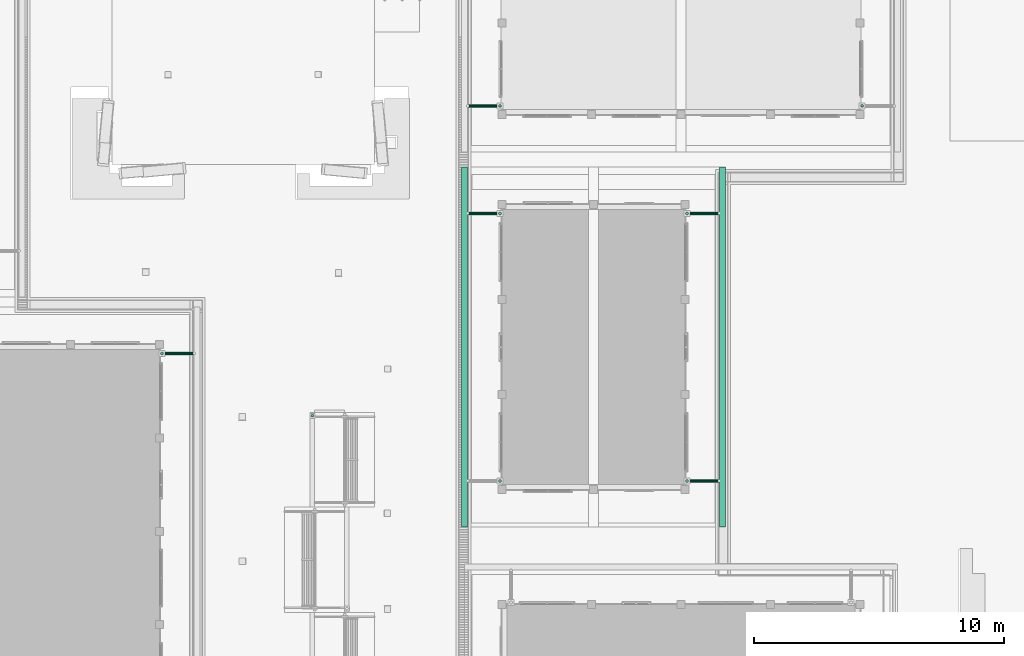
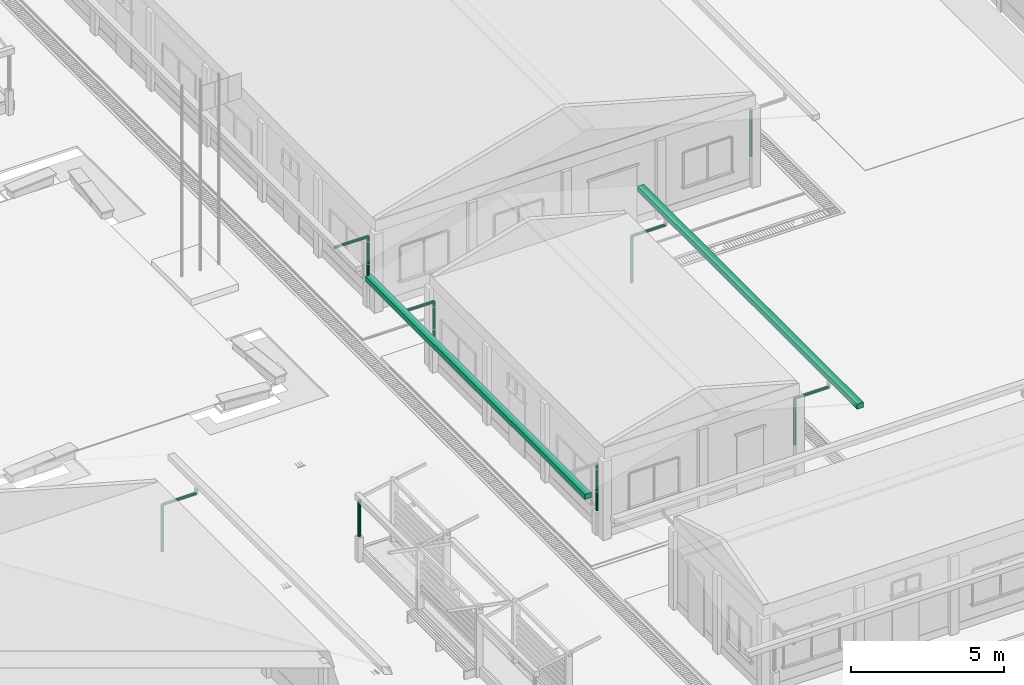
# One storey, part 95 of 151: 15 flow segments.
"""IFC2X3 building model written with IfcOpenShell, lengths in metres."""

from ifc_helpers import new_model, si_unit, origin, origin_with_axes, place, context, subcontext, project, spatial, faceted_brep, element, save


model = new_model("IFC2X3")

# Units and contexts
model_context = context("Model", 3, precision=1e-05, world=origin_with_axes())
body_context = subcontext(model_context, "Body", "Model", "MODEL_VIEW")
ifc_project = project(units=[si_unit("LENGTHUNIT", "METRE"), si_unit("AREAUNIT", "SQUARE_METRE"), si_unit("VOLUMEUNIT", "CUBIC_METRE"), si_unit("PLANEANGLEUNIT", "RADIAN")], contexts=[model_context])

# Site, building, storey
site_placement = place(None, origin_with_axes())
site = spatial("IfcSite", under=ifc_project, at=site_placement, Name="Predio Los Mangos - Morales, San Martín", CompositionType="ELEMENT")
building_placement = place(site_placement, origin())
building = spatial("IfcBuilding", under=site, at=building_placement, Name="Hogar de Refugio Temporal", CompositionType="ELEMENT")
storey_placement = place(building_placement, origin())
storey = spatial("IfcBuildingStorey", under=building, at=storey_placement, Name="NIVEL 1 (NPT +0.00)", CompositionType="ELEMENT", Elevation=0.0)

# Flow segments
flow_segment_1_placement = place(storey_placement, origin())
element("IfcFlowSegment", 1, at=flow_segment_1_placement, inside=storey, Name="E-02_canaleta", ObjectType="Canaleta", context=body_context, shape_type="Brep", body=[
    faceted_brep([(43.68, 41.4, 3.13), (43.68, 55.8, 3.13), (43.92, 55.8, 3.13), (43.92, 41.4, 3.13), (43.68, 41.4, 3.33), (43.92, 41.4, 3.33), (43.92, 55.8, 3.33), (43.68, 55.8, 3.33)], [[[0, 1, 2, 3]], [[4, 5, 6, 7]], [[0, 3, 5, 4]], [[3, 2, 6, 5]], [[2, 1, 7, 6]], [[1, 0, 4, 7]]]),
])
flow_segment_2_placement = place(storey_placement, origin())
element("IfcFlowSegment", 2, at=flow_segment_2_placement, inside=storey, Name="E-02_canaleta", ObjectType="Canaleta", context=body_context, shape_type="Brep", body=[
    faceted_brep([(53.98, 41.4, 3.13), (53.98, 55.8, 3.13), (54.22, 55.8, 3.13), (54.22, 41.4, 3.13), (53.98, 41.4, 3.33), (54.22, 41.4, 3.33), (54.22, 55.8, 3.33), (53.98, 55.8, 3.33)], [[[0, 1, 2, 3]], [[4, 5, 6, 7]], [[0, 3, 5, 4]], [[3, 2, 6, 5]], [[2, 1, 7, 6]], [[1, 0, 4, 7]]]),
])
flow_segment_3_placement = place(storey_placement, origin())
element("IfcFlowSegment", 3, at=flow_segment_3_placement, inside=storey, Name="montante_desvio", ObjectType="Montante PVC 4\"", context=body_context, shape_type="Brep", body=[
    faceted_brep([(32.98, 48.35, 2.965), (31.69, 48.35, 2.965), (31.69, 48.3225, 2.9576), (32.98, 48.3225, 2.9576), (31.69, 48.3024, 2.9375), (32.98, 48.3024, 2.9375), (31.69, 48.295, 2.91), (32.98, 48.295, 2.91), (31.69, 48.3024, 2.8825), (32.98, 48.3024, 2.8825), (31.69, 48.3225, 2.8624), (32.98, 48.3225, 2.8624), (31.69, 48.35, 2.855), (32.98, 48.35, 2.855), (31.69, 48.3775, 2.8624), (32.98, 48.3775, 2.8624), (31.69, 48.3976, 2.8825), (32.98, 48.3976, 2.8825), (31.69, 48.405, 2.91), (32.98, 48.405, 2.91), (31.69, 48.3976, 2.9375), (32.98, 48.3976, 2.9375), (31.69, 48.3775, 2.9576), (32.98, 48.3775, 2.9576)], [[[0, 1, 2, 3]], [[3, 2, 4, 5]], [[5, 4, 6, 7]], [[7, 6, 8, 9]], [[9, 8, 10, 11]], [[11, 10, 12, 13]], [[13, 12, 14, 15]], [[15, 14, 16, 17]], [[17, 16, 18, 19]], [[19, 18, 20, 21]], [[2, 1, 22, 20, 18, 16, 14, 12, 10, 8, 6, 4]], [[21, 20, 22, 23]], [[23, 22, 1, 0]], [[0, 3, 5, 7, 9, 11, 13, 15, 17, 19, 21, 23]]]),
])
flow_segment_4_placement = place(storey_placement, origin())
element("IfcFlowSegment", 4, at=flow_segment_4_placement, inside=storey, Name="montante_bajada", ObjectType="Montante PVC 4\"", context=body_context, shape_type="Brep", body=[
    faceted_brep([(31.69, 48.405, 2.91), (31.69, 48.405, 1.05), (31.6625, 48.3976, 1.05), (31.6625, 48.3976, 2.91), (31.6424, 48.3775, 1.05), (31.6424, 48.3775, 2.91), (31.635, 48.35, 1.05), (31.635, 48.35, 2.91), (31.6424, 48.3225, 1.05), (31.6424, 48.3225, 2.91), (31.6625, 48.3024, 1.05), (31.6625, 48.3024, 2.91), (31.69, 48.295, 1.05), (31.69, 48.295, 2.91), (31.7175, 48.3024, 1.05), (31.7175, 48.3024, 2.91), (31.7376, 48.3225, 1.05), (31.7376, 48.3225, 2.91), (31.745, 48.35, 1.05), (31.745, 48.35, 2.91), (31.7376, 48.3775, 1.05), (31.7376, 48.3775, 2.91), (31.7175, 48.3976, 1.05), (31.7175, 48.3976, 2.91)], [[[0, 1, 2, 3]], [[3, 2, 4, 5]], [[5, 4, 6, 7]], [[7, 6, 8, 9]], [[9, 8, 10, 11]], [[11, 10, 12, 13]], [[13, 12, 14, 15]], [[15, 14, 16, 17]], [[17, 16, 18, 19]], [[19, 18, 20, 21]], [[2, 1, 22, 20, 18, 16, 14, 12, 10, 8, 6, 4]], [[21, 20, 22, 23]], [[23, 22, 1, 0]], [[0, 3, 5, 7, 9, 11, 13, 15, 17, 19, 21, 23]]]),
])
flow_segment_5_placement = place(storey_placement, origin())
element("IfcFlowSegment", 5, at=flow_segment_5_placement, inside=storey, Name="montante_bajada", ObjectType="Montante PVC 4\"", context=body_context, shape_type="Brep", body=[
    faceted_brep([(45.21, 43.305, 2.91), (45.21, 43.305, 1.05), (45.1825, 43.2976, 1.05), (45.1825, 43.2976, 2.91), (45.1624, 43.2775, 1.05), (45.1624, 43.2775, 2.91), (45.155, 43.25, 1.05), (45.155, 43.25, 2.91), (45.1624, 43.2225, 1.05), (45.1624, 43.2225, 2.91), (45.1825, 43.2024, 1.05), (45.1825, 43.2024, 2.91), (45.21, 43.195, 1.05), (45.21, 43.195, 2.91), (45.2375, 43.2024, 1.05), (45.2375, 43.2024, 2.91), (45.2576, 43.2225, 1.05), (45.2576, 43.2225, 2.91), (45.265, 43.25, 1.05), (45.265, 43.25, 2.91), (45.2576, 43.2775, 1.05), (45.2576, 43.2775, 2.91), (45.2375, 43.2976, 1.05), (45.2375, 43.2976, 2.91)], [[[0, 1, 2, 3]], [[3, 2, 4, 5]], [[5, 4, 6, 7]], [[7, 6, 8, 9]], [[9, 8, 10, 11]], [[11, 10, 12, 13]], [[13, 12, 14, 15]], [[15, 14, 16, 17]], [[17, 16, 18, 19]], [[19, 18, 20, 21]], [[2, 1, 22, 20, 18, 16, 14, 12, 10, 8, 6, 4]], [[21, 20, 22, 23]], [[23, 22, 1, 0]], [[0, 3, 5, 7, 9, 11, 13, 15, 17, 19, 21, 23]]]),
])
flow_segment_6_placement = place(storey_placement, origin())
element("IfcFlowSegment", 6, at=flow_segment_6_placement, inside=storey, Name="montante_desvio", ObjectType="Montante PVC 4\"", context=body_context, shape_type="Brep", body=[
    faceted_brep([(43.92, 53.95, 2.965), (45.21, 53.95, 2.965), (45.21, 53.9775, 2.9576), (43.92, 53.9775, 2.9576), (45.21, 53.9976, 2.9375), (43.92, 53.9976, 2.9375), (45.21, 54.005, 2.91), (43.92, 54.005, 2.91), (45.21, 53.9976, 2.8825), (43.92, 53.9976, 2.8825), (45.21, 53.9775, 2.8624), (43.92, 53.9775, 2.8624), (45.21, 53.95, 2.855), (43.92, 53.95, 2.855), (45.21, 53.9225, 2.8624), (43.92, 53.9225, 2.8624), (45.21, 53.9024, 2.8825), (43.92, 53.9024, 2.8825), (45.21, 53.895, 2.91), (43.92, 53.895, 2.91), (45.21, 53.9024, 2.9375), (43.92, 53.9024, 2.9375), (45.21, 53.9225, 2.9576), (43.92, 53.9225, 2.9576)], [[[0, 1, 2, 3]], [[3, 2, 4, 5]], [[5, 4, 6, 7]], [[7, 6, 8, 9]], [[9, 8, 10, 11]], [[11, 10, 12, 13]], [[13, 12, 14, 15]], [[15, 14, 16, 17]], [[17, 16, 18, 19]], [[19, 18, 20, 21]], [[2, 1, 22, 20, 18, 16, 14, 12, 10, 8, 6, 4]], [[21, 20, 22, 23]], [[23, 22, 1, 0]], [[0, 3, 5, 7, 9, 11, 13, 15, 17, 19, 21, 23]]]),
])
flow_segment_7_placement = place(storey_placement, origin())
element("IfcFlowSegment", 7, at=flow_segment_7_placement, inside=storey, Name="montante_bajada", ObjectType="Montante PVC 4\"", context=body_context, shape_type="Brep", body=[
    faceted_brep([(45.21, 54.005, 2.91), (45.21, 54.005, 1.05), (45.1825, 53.9976, 1.05), (45.1825, 53.9976, 2.91), (45.1624, 53.9775, 1.05), (45.1624, 53.9775, 2.91), (45.155, 53.95, 1.05), (45.155, 53.95, 2.91), (45.1624, 53.9225, 1.05), (45.1624, 53.9225, 2.91), (45.1825, 53.9024, 1.05), (45.1825, 53.9024, 2.91), (45.21, 53.895, 1.05), (45.21, 53.895, 2.91), (45.2375, 53.9024, 1.05), (45.2375, 53.9024, 2.91), (45.2576, 53.9225, 1.05), (45.2576, 53.9225, 2.91), (45.265, 53.95, 1.05), (45.265, 53.95, 2.91), (45.2576, 53.9775, 1.05), (45.2576, 53.9775, 2.91), (45.2375, 53.9976, 1.05), (45.2375, 53.9976, 2.91)], [[[0, 1, 2, 3]], [[3, 2, 4, 5]], [[5, 4, 6, 7]], [[7, 6, 8, 9]], [[9, 8, 10, 11]], [[11, 10, 12, 13]], [[13, 12, 14, 15]], [[15, 14, 16, 17]], [[17, 16, 18, 19]], [[19, 18, 20, 21]], [[2, 1, 22, 20, 18, 16, 14, 12, 10, 8, 6, 4]], [[21, 20, 22, 23]], [[23, 22, 1, 0]], [[0, 3, 5, 7, 9, 11, 13, 15, 17, 19, 21, 23]]]),
])
flow_segment_8_placement = place(storey_placement, origin())
element("IfcFlowSegment", 8, at=flow_segment_8_placement, inside=storey, Name="montante_desvio", ObjectType="Montante PVC 4\"", context=body_context, shape_type="Brep", body=[
    faceted_brep([(53.98, 43.25, 2.965), (52.69, 43.25, 2.965), (52.69, 43.2225, 2.9576), (53.98, 43.2225, 2.9576), (52.69, 43.2024, 2.9375), (53.98, 43.2024, 2.9375), (52.69, 43.195, 2.91), (53.98, 43.195, 2.91), (52.69, 43.2024, 2.8825), (53.98, 43.2024, 2.8825), (52.69, 43.2225, 2.8624), (53.98, 43.2225, 2.8624), (52.69, 43.25, 2.855), (53.98, 43.25, 2.855), (52.69, 43.2775, 2.8624), (53.98, 43.2775, 2.8624), (52.69, 43.2976, 2.8825), (53.98, 43.2976, 2.8825), (52.69, 43.305, 2.91), (53.98, 43.305, 2.91), (52.69, 43.2976, 2.9375), (53.98, 43.2976, 2.9375), (52.69, 43.2775, 2.9576), (53.98, 43.2775, 2.9576)], [[[0, 1, 2, 3]], [[3, 2, 4, 5]], [[5, 4, 6, 7]], [[7, 6, 8, 9]], [[9, 8, 10, 11]], [[11, 10, 12, 13]], [[13, 12, 14, 15]], [[15, 14, 16, 17]], [[17, 16, 18, 19]], [[19, 18, 20, 21]], [[2, 1, 22, 20, 18, 16, 14, 12, 10, 8, 6, 4]], [[21, 20, 22, 23]], [[23, 22, 1, 0]], [[0, 3, 5, 7, 9, 11, 13, 15, 17, 19, 21, 23]]]),
])
flow_segment_9_placement = place(storey_placement, origin())
element("IfcFlowSegment", 9, at=flow_segment_9_placement, inside=storey, Name="montante_bajada", ObjectType="Montante PVC 4\"", context=body_context, shape_type="Brep", body=[
    faceted_brep([(52.69, 43.305, 2.91), (52.69, 43.305, 1.05), (52.6625, 43.2976, 1.05), (52.6625, 43.2976, 2.91), (52.6424, 43.2775, 1.05), (52.6424, 43.2775, 2.91), (52.635, 43.25, 1.05), (52.635, 43.25, 2.91), (52.6424, 43.2225, 1.05), (52.6424, 43.2225, 2.91), (52.6625, 43.2024, 1.05), (52.6625, 43.2024, 2.91), (52.69, 43.195, 1.05), (52.69, 43.195, 2.91), (52.7175, 43.2024, 1.05), (52.7175, 43.2024, 2.91), (52.7376, 43.2225, 1.05), (52.7376, 43.2225, 2.91), (52.745, 43.25, 1.05), (52.745, 43.25, 2.91), (52.7376, 43.2775, 1.05), (52.7376, 43.2775, 2.91), (52.7175, 43.2976, 1.05), (52.7175, 43.2976, 2.91)], [[[0, 1, 2, 3]], [[3, 2, 4, 5]], [[5, 4, 6, 7]], [[7, 6, 8, 9]], [[9, 8, 10, 11]], [[11, 10, 12, 13]], [[13, 12, 14, 15]], [[15, 14, 16, 17]], [[17, 16, 18, 19]], [[19, 18, 20, 21]], [[2, 1, 22, 20, 18, 16, 14, 12, 10, 8, 6, 4]], [[21, 20, 22, 23]], [[23, 22, 1, 0]], [[0, 3, 5, 7, 9, 11, 13, 15, 17, 19, 21, 23]]]),
])
flow_segment_10_placement = place(storey_placement, origin())
element("IfcFlowSegment", 10, at=flow_segment_10_placement, inside=storey, Name="montante_desvio", ObjectType="Montante PVC 4\"", context=body_context, shape_type="Brep", body=[
    faceted_brep([(53.98, 53.95, 2.965), (52.69, 53.95, 2.965), (52.69, 53.9225, 2.9576), (53.98, 53.9225, 2.9576), (52.69, 53.9024, 2.9375), (53.98, 53.9024, 2.9375), (52.69, 53.895, 2.91), (53.98, 53.895, 2.91), (52.69, 53.9024, 2.8825), (53.98, 53.9024, 2.8825), (52.69, 53.9225, 2.8624), (53.98, 53.9225, 2.8624), (52.69, 53.95, 2.855), (53.98, 53.95, 2.855), (52.69, 53.9775, 2.8624), (53.98, 53.9775, 2.8624), (52.69, 53.9976, 2.8825), (53.98, 53.9976, 2.8825), (52.69, 54.005, 2.91), (53.98, 54.005, 2.91), (52.69, 53.9976, 2.9375), (53.98, 53.9976, 2.9375), (52.69, 53.9775, 2.9576), (53.98, 53.9775, 2.9576)], [[[0, 1, 2, 3]], [[3, 2, 4, 5]], [[5, 4, 6, 7]], [[7, 6, 8, 9]], [[9, 8, 10, 11]], [[11, 10, 12, 13]], [[13, 12, 14, 15]], [[15, 14, 16, 17]], [[17, 16, 18, 19]], [[19, 18, 20, 21]], [[2, 1, 22, 20, 18, 16, 14, 12, 10, 8, 6, 4]], [[21, 20, 22, 23]], [[23, 22, 1, 0]], [[0, 3, 5, 7, 9, 11, 13, 15, 17, 19, 21, 23]]]),
])
flow_segment_11_placement = place(storey_placement, origin())
element("IfcFlowSegment", 11, at=flow_segment_11_placement, inside=storey, Name="montante_bajada", ObjectType="Montante PVC 4\"", context=body_context, shape_type="Brep", body=[
    faceted_brep([(52.69, 54.005, 2.91), (52.69, 54.005, 1.05), (52.6625, 53.9976, 1.05), (52.6625, 53.9976, 2.91), (52.6424, 53.9775, 1.05), (52.6424, 53.9775, 2.91), (52.635, 53.95, 1.05), (52.635, 53.95, 2.91), (52.6424, 53.9225, 1.05), (52.6424, 53.9225, 2.91), (52.6625, 53.9024, 1.05), (52.6625, 53.9024, 2.91), (52.69, 53.895, 1.05), (52.69, 53.895, 2.91), (52.7175, 53.9024, 1.05), (52.7175, 53.9024, 2.91), (52.7376, 53.9225, 1.05), (52.7376, 53.9225, 2.91), (52.745, 53.95, 1.05), (52.745, 53.95, 2.91), (52.7376, 53.9775, 1.05), (52.7376, 53.9775, 2.91), (52.7175, 53.9976, 1.05), (52.7175, 53.9976, 2.91)], [[[0, 1, 2, 3]], [[3, 2, 4, 5]], [[5, 4, 6, 7]], [[7, 6, 8, 9]], [[9, 8, 10, 11]], [[11, 10, 12, 13]], [[13, 12, 14, 15]], [[15, 14, 16, 17]], [[17, 16, 18, 19]], [[19, 18, 20, 21]], [[2, 1, 22, 20, 18, 16, 14, 12, 10, 8, 6, 4]], [[21, 20, 22, 23]], [[23, 22, 1, 0]], [[0, 3, 5, 7, 9, 11, 13, 15, 17, 19, 21, 23]]]),
])
flow_segment_12_placement = place(storey_placement, origin())
element("IfcFlowSegment", 12, at=flow_segment_12_placement, inside=storey, Name="montante_desvio", ObjectType="Montante PVC 4\"", context=body_context, shape_type="Brep", body=[
    faceted_brep([(43.92, 58.25, 2.965), (45.21, 58.25, 2.965), (45.21, 58.2775, 2.9576), (43.92, 58.2775, 2.9576), (45.21, 58.2976, 2.9375), (43.92, 58.2976, 2.9375), (45.21, 58.305, 2.91), (43.92, 58.305, 2.91), (45.21, 58.2976, 2.8825), (43.92, 58.2976, 2.8825), (45.21, 58.2775, 2.8624), (43.92, 58.2775, 2.8624), (45.21, 58.25, 2.855), (43.92, 58.25, 2.855), (45.21, 58.2225, 2.8624), (43.92, 58.2225, 2.8624), (45.21, 58.2024, 2.8825), (43.92, 58.2024, 2.8825), (45.21, 58.195, 2.91), (43.92, 58.195, 2.91), (45.21, 58.2024, 2.9375), (43.92, 58.2024, 2.9375), (45.21, 58.2225, 2.9576), (43.92, 58.2225, 2.9576)], [[[0, 1, 2, 3]], [[3, 2, 4, 5]], [[5, 4, 6, 7]], [[7, 6, 8, 9]], [[9, 8, 10, 11]], [[11, 10, 12, 13]], [[13, 12, 14, 15]], [[15, 14, 16, 17]], [[17, 16, 18, 19]], [[19, 18, 20, 21]], [[2, 1, 22, 20, 18, 16, 14, 12, 10, 8, 6, 4]], [[21, 20, 22, 23]], [[23, 22, 1, 0]], [[0, 3, 5, 7, 9, 11, 13, 15, 17, 19, 21, 23]]]),
])
flow_segment_13_placement = place(storey_placement, origin())
element("IfcFlowSegment", 13, at=flow_segment_13_placement, inside=storey, Name="montante_bajada", ObjectType="Montante PVC 4\"", context=body_context, shape_type="Brep", body=[
    faceted_brep([(45.21, 58.305, 2.91), (45.21, 58.305, 1.05), (45.1825, 58.2976, 1.05), (45.1825, 58.2976, 2.91), (45.1624, 58.2775, 1.05), (45.1624, 58.2775, 2.91), (45.155, 58.25, 1.05), (45.155, 58.25, 2.91), (45.1624, 58.2225, 1.05), (45.1624, 58.2225, 2.91), (45.1825, 58.2024, 1.05), (45.1825, 58.2024, 2.91), (45.21, 58.195, 1.05), (45.21, 58.195, 2.91), (45.2375, 58.2024, 1.05), (45.2375, 58.2024, 2.91), (45.2576, 58.2225, 1.05), (45.2576, 58.2225, 2.91), (45.265, 58.25, 1.05), (45.265, 58.25, 2.91), (45.2576, 58.2775, 1.05), (45.2576, 58.2775, 2.91), (45.2375, 58.2976, 1.05), (45.2375, 58.2976, 2.91)], [[[0, 1, 2, 3]], [[3, 2, 4, 5]], [[5, 4, 6, 7]], [[7, 6, 8, 9]], [[9, 8, 10, 11]], [[11, 10, 12, 13]], [[13, 12, 14, 15]], [[15, 14, 16, 17]], [[17, 16, 18, 19]], [[19, 18, 20, 21]], [[2, 1, 22, 20, 18, 16, 14, 12, 10, 8, 6, 4]], [[21, 20, 22, 23]], [[23, 22, 1, 0]], [[0, 3, 5, 7, 9, 11, 13, 15, 17, 19, 21, 23]]]),
])
flow_segment_14_placement = place(storey_placement, origin())
element("IfcFlowSegment", 14, at=flow_segment_14_placement, inside=storey, Name="montante_bajada", ObjectType="Montante PVC 4\"", context=body_context, shape_type="Brep", body=[
    faceted_brep([(59.69, 58.305, 2.91), (59.69, 58.305, 1.05), (59.6625, 58.2976, 1.05), (59.6625, 58.2976, 2.91), (59.6424, 58.2775, 1.05), (59.6424, 58.2775, 2.91), (59.635, 58.25, 1.05), (59.635, 58.25, 2.91), (59.6424, 58.2225, 1.05), (59.6424, 58.2225, 2.91), (59.6625, 58.2024, 1.05), (59.6625, 58.2024, 2.91), (59.69, 58.195, 1.05), (59.69, 58.195, 2.91), (59.7175, 58.2024, 1.05), (59.7175, 58.2024, 2.91), (59.7376, 58.2225, 1.05), (59.7376, 58.2225, 2.91), (59.745, 58.25, 1.05), (59.745, 58.25, 2.91), (59.7376, 58.2775, 1.05), (59.7376, 58.2775, 2.91), (59.7175, 58.2976, 1.05), (59.7175, 58.2976, 2.91)], [[[0, 1, 2, 3]], [[3, 2, 4, 5]], [[5, 4, 6, 7]], [[7, 6, 8, 9]], [[9, 8, 10, 11]], [[11, 10, 12, 13]], [[13, 12, 14, 15]], [[15, 14, 16, 17]], [[17, 16, 18, 19]], [[19, 18, 20, 21]], [[2, 1, 22, 20, 18, 16, 14, 12, 10, 8, 6, 4]], [[21, 20, 22, 23]], [[23, 22, 1, 0]], [[0, 3, 5, 7, 9, 11, 13, 15, 17, 19, 21, 23]]]),
])
flow_segment_15_placement = place(storey_placement, origin())
element("IfcFlowSegment", 15, at=flow_segment_15_placement, inside=storey, Name="oc01_bajada", ObjectType="Montante PVC 4\"", context=body_context, shape_type="Brep", body=[
    faceted_brep([(37.71, 45.91, 2.49), (37.71, 45.91, 1.05), (37.6825, 45.9026, 1.05), (37.6825, 45.9026, 2.49), (37.6624, 45.8825, 1.05), (37.6624, 45.8825, 2.49), (37.655, 45.855, 1.05), (37.655, 45.855, 2.49), (37.6624, 45.8275, 1.05), (37.6624, 45.8275, 2.49), (37.6825, 45.8074, 1.05), (37.6825, 45.8074, 2.49), (37.71, 45.8, 1.05), (37.71, 45.8, 2.49), (37.7375, 45.8074, 1.05), (37.7375, 45.8074, 2.49), (37.7576, 45.8275, 1.05), (37.7576, 45.8275, 2.49), (37.765, 45.855, 1.05), (37.765, 45.855, 2.49), (37.7576, 45.8825, 1.05), (37.7576, 45.8825, 2.49), (37.7375, 45.9026, 1.05), (37.7375, 45.9026, 2.49)], [[[0, 1, 2, 3]], [[3, 2, 4, 5]], [[5, 4, 6, 7]], [[7, 6, 8, 9]], [[9, 8, 10, 11]], [[11, 10, 12, 13]], [[13, 12, 14, 15]], [[15, 14, 16, 17]], [[17, 16, 18, 19]], [[19, 18, 20, 21]], [[2, 1, 22, 20, 18, 16, 14, 12, 10, 8, 6, 4]], [[21, 20, 22, 23]], [[23, 22, 1, 0]], [[0, 3, 5, 7, 9, 11, 13, 15, 17, 19, 21, 23]]]),
])

save(model, "model.ifc")
